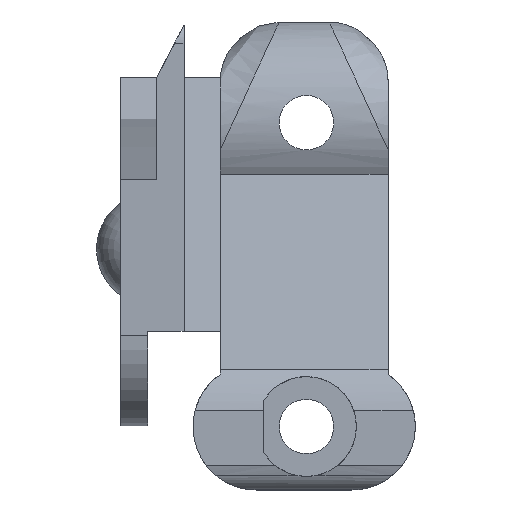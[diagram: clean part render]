
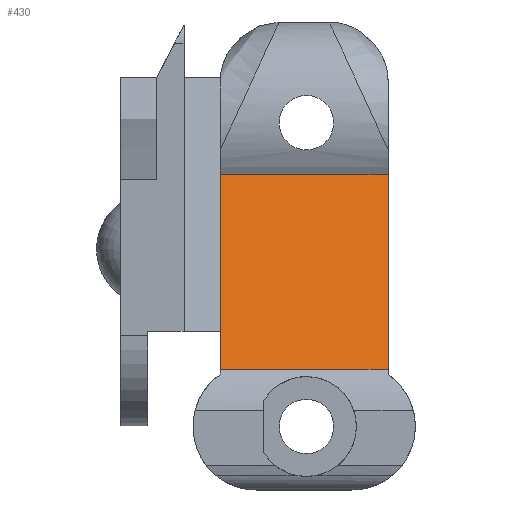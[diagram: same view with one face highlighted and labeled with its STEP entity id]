
A CAD part, left-side view. The second image highlights one B-rep face of the part: STEP entity #430.
In plain terms, the highlighted planar face has unit normal (-0.966, 0, 0.259).
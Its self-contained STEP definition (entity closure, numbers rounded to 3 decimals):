
#200 = DIRECTION ( 'NONE',  ( 0., 1., 0. ) ) ;
#343 = LINE ( 'NONE', #4399, #2116 ) ;
#376 = VERTEX_POINT ( 'NONE', #3019 ) ;
#430 = ADVANCED_FACE ( 'NONE', ( #483 ), #2216, .T. ) ;
#451 = DIRECTION ( 'NONE',  ( -0.966, 0., 0.259 ) ) ;
#483 = FACE_OUTER_BOUND ( 'NONE', #1776, .T. ) ;
#499 = VERTEX_POINT ( 'NONE', #2585 ) ;
#628 = VECTOR ( 'NONE', #1392, 1000. ) ;
#772 = CARTESIAN_POINT ( 'NONE',  ( -9.525, 9.25, -16.8 ) ) ;
#1003 = EDGE_CURVE ( 'NONE', #376, #3533, #343, .T. ) ;
#1101 = CARTESIAN_POINT ( 'NONE',  ( -9.525, 9.25, -16.8 ) ) ;
#1392 = DIRECTION ( 'NONE',  ( 0., -1., 0. ) ) ;
#1472 = VERTEX_POINT ( 'NONE', #1983 ) ;
#1618 = EDGE_CURVE ( 'NONE', #499, #1472, #2625, .T. ) ;
#1776 = EDGE_LOOP ( 'NONE', ( #3532, #2312, #2951, #2983 ) ) ;
#1841 = DIRECTION ( 'NONE',  ( 0.259, 0., 0.966 ) ) ;
#1983 = CARTESIAN_POINT ( 'NONE',  ( -15.287, -9.25, -38.304 ) ) ;
#2105 = CARTESIAN_POINT ( 'NONE',  ( -15.287, -12.25, -38.304 ) ) ;
#2116 = VECTOR ( 'NONE', #200, 1000. ) ;
#2216 = PLANE ( 'NONE',  #2458 ) ;
#2312 = ORIENTED_EDGE ( 'NONE', *, *, #1003, .T. ) ;
#2458 = AXIS2_PLACEMENT_3D ( 'NONE', #3969, #451, #2925 ) ;
#2585 = CARTESIAN_POINT ( 'NONE',  ( -15.287, 9.25, -38.304 ) ) ;
#2625 = LINE ( 'NONE', #2105, #628 ) ;
#2883 = DIRECTION ( 'NONE',  ( -0.259, 0., -0.966 ) ) ;
#2925 = DIRECTION ( 'NONE',  ( 0.259, 0., 0.966 ) ) ;
#2951 = ORIENTED_EDGE ( 'NONE', *, *, #3820, .T. ) ;
#2983 = ORIENTED_EDGE ( 'NONE', *, *, #1618, .T. ) ;
#3019 = CARTESIAN_POINT ( 'NONE',  ( -9.525, -9.25, -16.8 ) ) ;
#3348 = LINE ( 'NONE', #1101, #4254 ) ;
#3532 = ORIENTED_EDGE ( 'NONE', *, *, #4512, .T. ) ;
#3533 = VERTEX_POINT ( 'NONE', #772 ) ;
#3558 = VECTOR ( 'NONE', #1841, 1000. ) ;
#3820 = EDGE_CURVE ( 'NONE', #3533, #499, #3348, .T. ) ;
#3957 = CARTESIAN_POINT ( 'NONE',  ( -9.525, -9.25, -16.8 ) ) ;
#3969 = CARTESIAN_POINT ( 'NONE',  ( -9.525, -12.25, -16.8 ) ) ;
#4254 = VECTOR ( 'NONE', #2883, 1000. ) ;
#4356 = LINE ( 'NONE', #3957, #3558 ) ;
#4399 = CARTESIAN_POINT ( 'NONE',  ( -9.525, -12.25, -16.8 ) ) ;
#4512 = EDGE_CURVE ( 'NONE', #1472, #376, #4356, .T. ) ;
